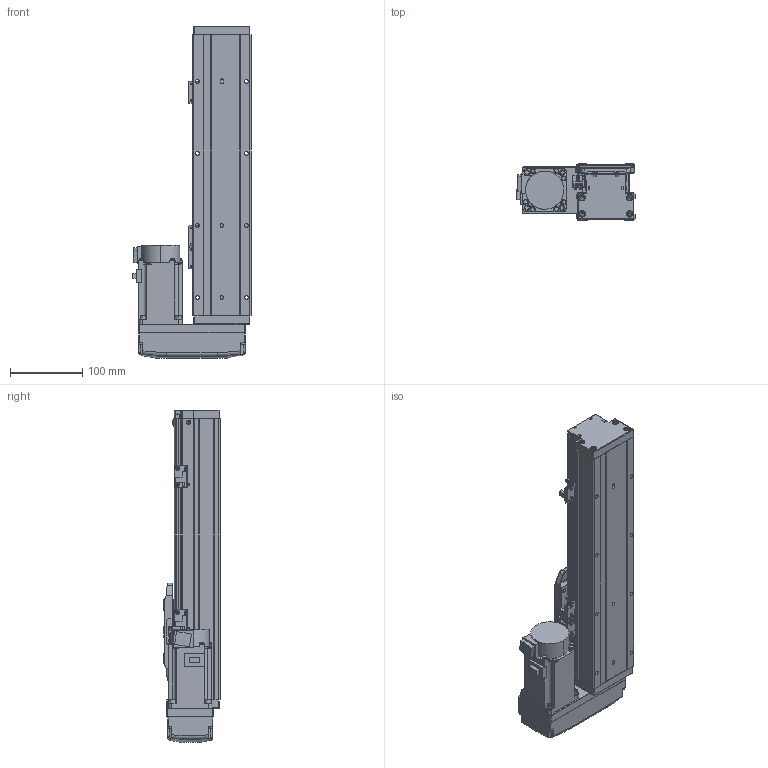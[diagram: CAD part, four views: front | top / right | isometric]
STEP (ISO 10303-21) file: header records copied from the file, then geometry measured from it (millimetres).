
FILE_DESCRIPTION (( 'STEP AP203' ), '1' );
FILE_NAME ('GTH8-200-BL-M20-C4.step', '2022-09-23T00:59:27', ( '微软用户' ), ( '微软中国' ), 'SwSTEP 2.0', 'SolidWorks 2020', '' );
FILE_SCHEMA (( 'CONFIG_CONTROL_DESIGN' ));
Length unit declared in the file: millimetre
Products named in the file (18): GTH80-003; GBT 70.1-M4×16; CTHA86-015-1_CTHA86-015-2; GTH80-004; GTH80-028; CTHA86-033_M40B; GTH80-006; GTH50-024; GTH8-200-BL-M20-C4; GTH80-013; GTH50-023; GBT 70.3-M3℅6; GBT96.1-2002 3×0.8; GTH80-022; BTH-M3X5X6; GTH80-001_200; GBT 70.1-M3℅6; hg-kn43j_-s100_
Assembly tree (57 placements, depth 2):
  GTH8-200-BL-M20-C4
    GTH80-001_200
    GTH80-003
    GTH80-004
    GTH80-006
    GTH80-013
    GBT 70.3-M3℅6  x4
    GTH80-022
    GBT 70.1-M3℅6  x14
    GBT 70.1-M4×16  x8
    GTH80-028  x2
    GTH50-024  x3
    GTH50-023  x3
    GBT96.1-2002 3×0.8  x6
    BTH-M3X5X6  x8
    hg-kn43j_-s100_
    CTHA86-015-1_CTHA86-015-2
    CTHA86-033_M40B
Bounding box: 164.8 x 78 x 461 mm (x, y, z)
Volume: 2681021.7 mm3; surface area: 329023.4 mm2
Topology: 59 solids, 59 shells, 2224 faces, 5127 edges, 3139 vertices
Faces by surface type: plane 1187, cylinder 595, cone 260, torus 166, bspline 8, sphere 8
Entity records: 40330 total; most frequent: CARTESIAN_POINT 7097, DIRECTION 6537, ORIENTED_EDGE 6072, EDGE_CURVE 3036, AXIS2_PLACEMENT_3D 2277, VECTOR 1983, LINE 1983, VERTEX_POINT 1914
